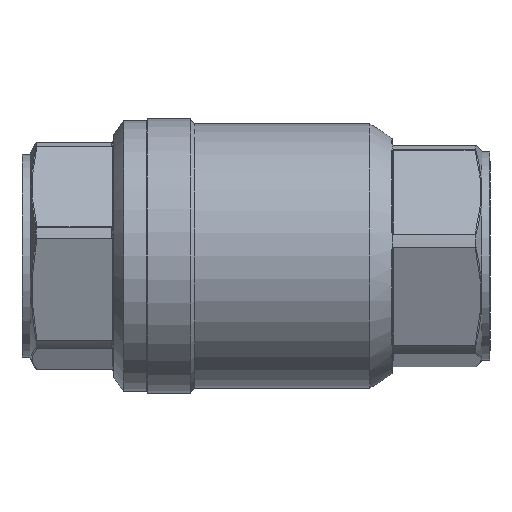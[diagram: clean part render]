
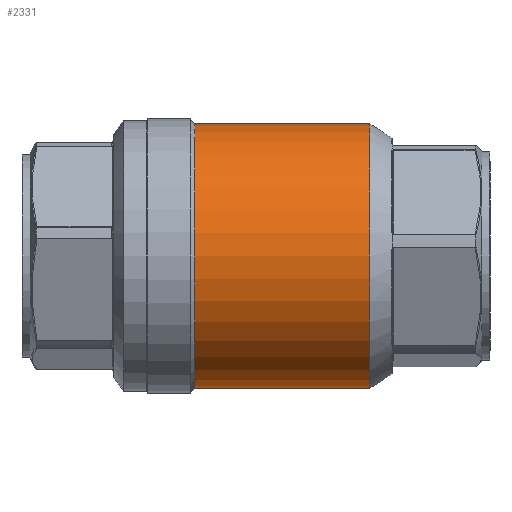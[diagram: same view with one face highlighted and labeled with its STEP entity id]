
A CAD part, front view. The second image highlights one B-rep face of the part: STEP entity #2331.
In plain terms, the highlighted cylindrical face has radius 16.497 mm (diameter 32.995 mm), a partial arc.
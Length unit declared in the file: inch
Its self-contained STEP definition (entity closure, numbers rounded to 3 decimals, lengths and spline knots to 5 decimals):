
#24 = CARTESIAN_POINT ( 'NONE',  ( -0.3013, 0., 0. ) ) ;
#263 = VERTEX_POINT ( 'NONE', #2558 ) ;
#338 = CARTESIAN_POINT ( 'NONE',  ( -0.3013, 0., 0.6495 ) ) ;
#766 = DIRECTION ( 'NONE',  ( -1., 0., 0. ) ) ;
#1071 = DIRECTION ( 'NONE',  ( 0., 0., -1. ) ) ;
#1181 = AXIS2_PLACEMENT_3D ( 'NONE', #6896, #766, #7946 ) ;
#1416 = ORIENTED_EDGE ( 'NONE', *, *, #8754, .T. ) ;
#1426 = LINE ( 'NONE', #4359, #8972 ) ;
#1476 = FACE_OUTER_BOUND ( 'NONE', #11522, .T. ) ;
#1669 = CARTESIAN_POINT ( 'NONE',  ( -0.3013, 0., -0.6495 ) ) ;
#2004 = VECTOR ( 'NONE', #5118, 39.37008 ) ;
#2195 = ORIENTED_EDGE ( 'NONE', *, *, #5909, .T. ) ;
#2331 = ADVANCED_FACE ( 'NONE', ( #1476 ), #9019, .T. ) ;
#2558 = CARTESIAN_POINT ( 'NONE',  ( 0.56, 0., 0.6495 ) ) ;
#2874 = AXIS2_PLACEMENT_3D ( 'NONE', #24, #7205, #1071 ) ;
#2878 = AXIS2_PLACEMENT_3D ( 'NONE', #13097, #4888, #5875 ) ;
#4101 = CARTESIAN_POINT ( 'NONE',  ( -2.21004, 0., -0.6495 ) ) ;
#4108 = ORIENTED_EDGE ( 'NONE', *, *, #9158, .F. ) ;
#4359 = CARTESIAN_POINT ( 'NONE',  ( -2.21004, 0., 0.6495 ) ) ;
#4888 = DIRECTION ( 'NONE',  ( -1., 0., 0. ) ) ;
#4967 = CIRCLE ( 'NONE', #1181, 0.6495 ) ;
#5118 = DIRECTION ( 'NONE',  ( -1., 0., 0. ) ) ;
#5875 = DIRECTION ( 'NONE',  ( 0., 0., 1. ) ) ;
#5909 = EDGE_CURVE ( 'NONE', #263, #11216, #1426, .T. ) ;
#6173 = ORIENTED_EDGE ( 'NONE', *, *, #6238, .T. ) ;
#6238 = EDGE_CURVE ( 'NONE', #12283, #263, #4967, .T. ) ;
#6434 = CARTESIAN_POINT ( 'NONE',  ( 0.56, 0., -0.6495 ) ) ;
#6896 = CARTESIAN_POINT ( 'NONE',  ( 0.56, 0., 0. ) ) ;
#7205 = DIRECTION ( 'NONE',  ( 1., 0., 0. ) ) ;
#7443 = LINE ( 'NONE', #4101, #2004 ) ;
#7946 = DIRECTION ( 'NONE',  ( 0., 0., 1. ) ) ;
#8754 = EDGE_CURVE ( 'NONE', #11216, #11472, #9731, .T. ) ;
#8972 = VECTOR ( 'NONE', #9464, 39.37008 ) ;
#9019 = CYLINDRICAL_SURFACE ( 'NONE', #2878, 0.6495 ) ;
#9158 = EDGE_CURVE ( 'NONE', #12283, #11472, #7443, .T. ) ;
#9464 = DIRECTION ( 'NONE',  ( -1., 0., 0. ) ) ;
#9731 = CIRCLE ( 'NONE', #2874, 0.6495 ) ;
#11216 = VERTEX_POINT ( 'NONE', #338 ) ;
#11472 = VERTEX_POINT ( 'NONE', #1669 ) ;
#11522 = EDGE_LOOP ( 'NONE', ( #4108, #6173, #2195, #1416 ) ) ;
#12283 = VERTEX_POINT ( 'NONE', #6434 ) ;
#13097 = CARTESIAN_POINT ( 'NONE',  ( -2.21004, 0., 0. ) ) ;
